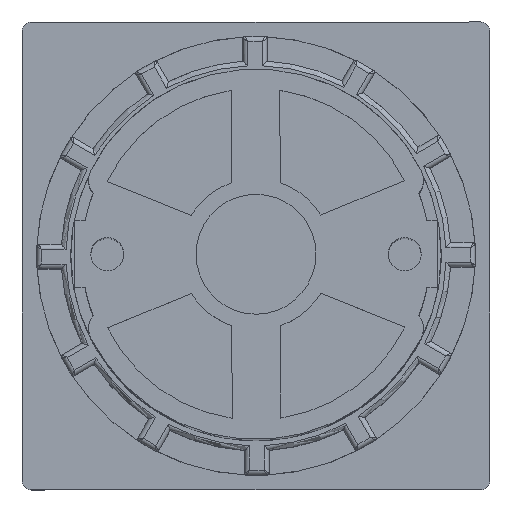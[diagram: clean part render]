
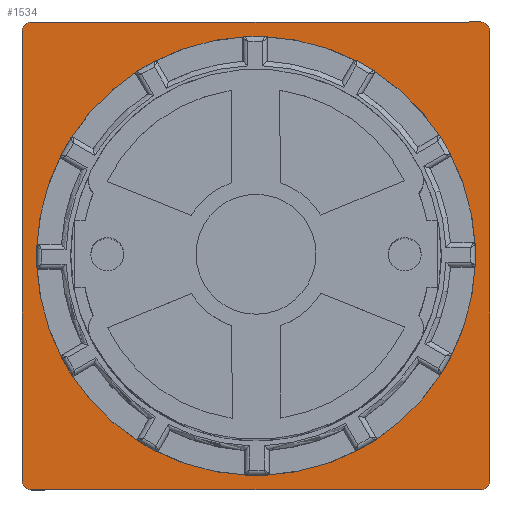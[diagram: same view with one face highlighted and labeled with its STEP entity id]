
A CAD part, top view. The second image highlights one B-rep face of the part: STEP entity #1534.
In plain terms, the highlighted planar face has unit normal (0, 0, 1).
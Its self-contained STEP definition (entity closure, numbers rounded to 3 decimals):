
#1534=ADVANCED_FACE('',(#7115,#7116),#2536,.F.);
#2536=PLANE('',#20318);
#3488=LINE('',#28941,#5230);
#3489=LINE('',#28946,#5231);
#3490=LINE('',#28950,#5232);
#3491=LINE('',#28954,#5233);
#5230=VECTOR('',#22644,1.);
#5231=VECTOR('',#22647,1.);
#5232=VECTOR('',#22650,1.);
#5233=VECTOR('',#22653,1.);
#7115=FACE_BOUND('',#7619,.T.);
#7116=FACE_BOUND('',#7620,.T.);
#7619=EDGE_LOOP('',(#9497,#9498,#9499,#9500,#9501,#9502,#9503,#9504));
#7620=EDGE_LOOP('',(#9505));
#9497=ORIENTED_EDGE('',*,*,#16846,.F.);
#9498=ORIENTED_EDGE('',*,*,#16847,.F.);
#9499=ORIENTED_EDGE('',*,*,#16848,.F.);
#9500=ORIENTED_EDGE('',*,*,#16849,.F.);
#9501=ORIENTED_EDGE('',*,*,#16850,.F.);
#9502=ORIENTED_EDGE('',*,*,#16851,.F.);
#9503=ORIENTED_EDGE('',*,*,#16852,.F.);
#9504=ORIENTED_EDGE('',*,*,#16853,.F.);
#9505=ORIENTED_EDGE('',*,*,#16808,.T.);
#14744=VERTEX_POINT('',#28846);
#14762=VERTEX_POINT('',#28942);
#14763=VERTEX_POINT('',#28943);
#14764=VERTEX_POINT('',#28945);
#14765=VERTEX_POINT('',#28947);
#14766=VERTEX_POINT('',#28949);
#14767=VERTEX_POINT('',#28951);
#14768=VERTEX_POINT('',#28953);
#14769=VERTEX_POINT('',#28955);
#16808=EDGE_CURVE('',#14744,#14744,#19410,.T.);
#16846=EDGE_CURVE('',#14762,#14763,#3488,.T.);
#16847=EDGE_CURVE('',#14764,#14762,#19440,.T.);
#16848=EDGE_CURVE('',#14765,#14764,#3489,.T.);
#16849=EDGE_CURVE('',#14766,#14765,#19441,.T.);
#16850=EDGE_CURVE('',#14767,#14766,#3490,.T.);
#16851=EDGE_CURVE('',#14768,#14767,#19442,.T.);
#16852=EDGE_CURVE('',#14769,#14768,#3491,.T.);
#16853=EDGE_CURVE('',#14763,#14769,#19443,.T.);
#19410=CIRCLE('',#20276,22.5);
#19440=CIRCLE('',#20314,1.);
#19441=CIRCLE('',#20315,1.);
#19442=CIRCLE('',#20316,1.);
#19443=CIRCLE('',#20317,1.);
#20276=AXIS2_PLACEMENT_3D('',#28845,#22560,#22561);
#20314=AXIS2_PLACEMENT_3D('',#28944,#22645,#22646);
#20315=AXIS2_PLACEMENT_3D('',#28948,#22648,#22649);
#20316=AXIS2_PLACEMENT_3D('',#28952,#22651,#22652);
#20317=AXIS2_PLACEMENT_3D('',#28956,#22654,#22655);
#20318=AXIS2_PLACEMENT_3D('',#28957,#22656,#22657);
#22560=DIRECTION('',(0.,0.,-1.));
#22561=DIRECTION('',(0.,1.,0.));
#22644=DIRECTION('',(0.,1.,0.));
#22645=DIRECTION('',(0.,0.,-1.));
#22646=DIRECTION('',(1.,0.,0.));
#22647=DIRECTION('',(-1.,0.,0.));
#22648=DIRECTION('',(0.,0.,-1.));
#22649=DIRECTION('',(1.,0.,0.));
#22650=DIRECTION('',(0.,-1.,0.));
#22651=DIRECTION('',(0.,0.,-1.));
#22652=DIRECTION('',(1.,0.,0.));
#22653=DIRECTION('',(1.,0.,0.));
#22654=DIRECTION('',(0.,0.,-1.));
#22655=DIRECTION('',(1.,0.,0.));
#22656=DIRECTION('',(0.,0.,-1.));
#22657=DIRECTION('',(-1.,0.,0.));
#28845=CARTESIAN_POINT('',(0.,0.,-18.4));
#28846=CARTESIAN_POINT('',(0.,22.5,-18.4));
#28941=CARTESIAN_POINT('',(-24.,-23.,-18.4));
#28942=CARTESIAN_POINT('',(-24.,-23.,-18.4));
#28943=CARTESIAN_POINT('',(-24.,23.,-18.4));
#28944=CARTESIAN_POINT('',(-23.,-23.,-18.4));
#28945=CARTESIAN_POINT('',(-23.,-24.,-18.4));
#28946=CARTESIAN_POINT('',(23.,-24.,-18.4));
#28947=CARTESIAN_POINT('',(23.,-24.,-18.4));
#28948=CARTESIAN_POINT('',(23.,-23.,-18.4));
#28949=CARTESIAN_POINT('',(24.,-23.,-18.4));
#28950=CARTESIAN_POINT('',(24.,23.,-18.4));
#28951=CARTESIAN_POINT('',(24.,23.,-18.4));
#28952=CARTESIAN_POINT('',(23.,23.,-18.4));
#28953=CARTESIAN_POINT('',(23.,24.,-18.4));
#28954=CARTESIAN_POINT('',(-23.,24.,-18.4));
#28955=CARTESIAN_POINT('',(-23.,24.,-18.4));
#28956=CARTESIAN_POINT('',(-23.,23.,-18.4));
#28957=CARTESIAN_POINT('',(-23.,23.,-18.4));
